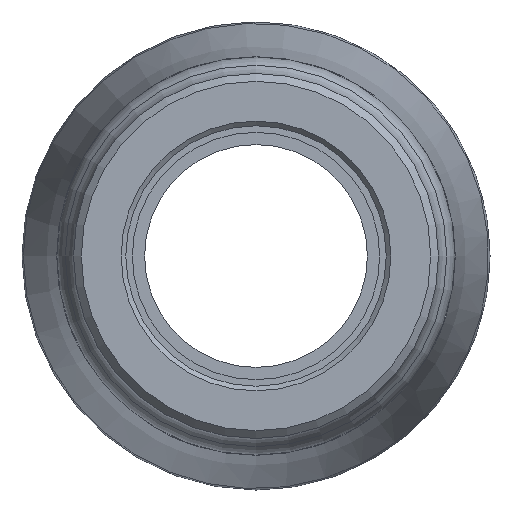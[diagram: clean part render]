
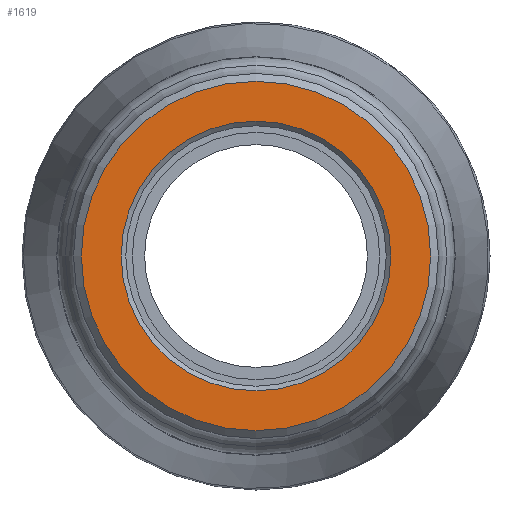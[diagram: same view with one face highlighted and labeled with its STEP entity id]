
A CAD part, left-side view. The second image highlights one B-rep face of the part: STEP entity #1619.
In plain terms, the highlighted planar face has unit normal (-1, 0, 0).
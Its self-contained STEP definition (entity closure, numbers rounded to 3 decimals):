
#29=FACE_BOUND('',#401,.T.);
#212=PLANE('',#1776);
#290=FACE_OUTER_BOUND('',#400,.T.);
#400=EDGE_LOOP('',(#1219));
#401=EDGE_LOOP('',(#1220));
#542=CIRCLE('',#1775,20.176);
#543=CIRCLE('',#1777,26.131);
#728=VERTEX_POINT('',#2874);
#729=VERTEX_POINT('',#2877);
#910=EDGE_CURVE('',#728,#728,#542,.T.);
#911=EDGE_CURVE('',#729,#729,#543,.T.);
#1219=ORIENTED_EDGE('',*,*,#911,.F.);
#1220=ORIENTED_EDGE('',*,*,#910,.F.);
#1619=ADVANCED_FACE('',(#290,#29),#212,.T.);
#1775=AXIS2_PLACEMENT_3D('',#2875,#2067,#2068);
#1776=AXIS2_PLACEMENT_3D('',#2876,#2069,#2070);
#1777=AXIS2_PLACEMENT_3D('',#2878,#2071,#2072);
#2067=DIRECTION('center_axis',(-1.,0.,0.));
#2068=DIRECTION('ref_axis',(0.,-1.,0.));
#2069=DIRECTION('center_axis',(-1.,0.,0.));
#2070=DIRECTION('ref_axis',(0.,0.,1.));
#2071=DIRECTION('center_axis',(1.,0.,0.));
#2072=DIRECTION('ref_axis',(0.,-1.,0.));
#2874=CARTESIAN_POINT('',(0.,20.176,0.));
#2875=CARTESIAN_POINT('Origin',(0.,0.,0.));
#2876=CARTESIAN_POINT('Origin',(0.,27.3,0.));
#2877=CARTESIAN_POINT('',(0.,26.131,0.));
#2878=CARTESIAN_POINT('Origin',(0.,0.,0.));
